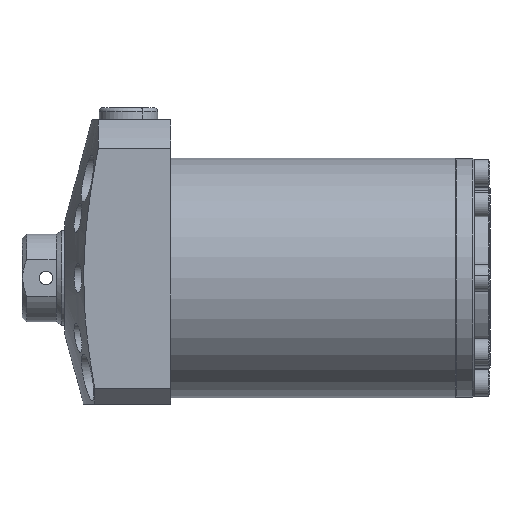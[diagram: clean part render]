
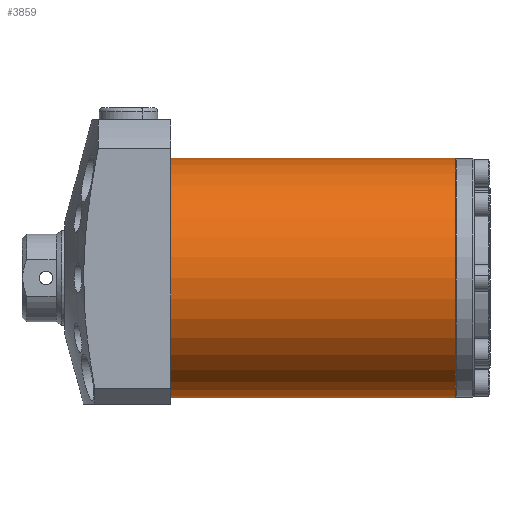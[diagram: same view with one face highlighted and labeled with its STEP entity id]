
A CAD part, left-side view. The second image highlights one B-rep face of the part: STEP entity #3859.
In plain terms, the highlighted cylindrical face has radius 45 mm (diameter 90 mm), a partial arc.
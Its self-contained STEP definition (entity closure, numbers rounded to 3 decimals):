
#908 = CARTESIAN_POINT ( 'NONE',  ( 0., 0., 0. ) ) ;
#909 = DIRECTION ( 'NONE',  ( 0., 1., 0. ) ) ;
#910 = DIRECTION ( 'NONE',  ( 0., 0., 1. ) ) ;
#926 = CARTESIAN_POINT ( 'NONE',  ( 0., -107., 0. ) ) ;
#928 = DIRECTION ( 'NONE',  ( 0., 1., 0. ) ) ;
#930 = DIRECTION ( 'NONE',  ( 0., 0., 1. ) ) ;
#2645 = VECTOR ( 'NONE', #5599, 1000. ) ;
#2652 = VECTOR ( 'NONE', #5604, 1000. ) ;
#2794 = CIRCLE ( 'NONE', #2799, 45. ) ;
#2799 = AXIS2_PLACEMENT_3D ( 'NONE', #908, #909, #910 ) ;
#2801 = CIRCLE ( 'NONE', #2803, 45. ) ;
#2803 = AXIS2_PLACEMENT_3D ( 'NONE', #926, #928, #930 ) ;
#3276 = ORIENTED_EDGE ( 'NONE', *, *, #7245, .F. ) ;
#3277 = ORIENTED_EDGE ( 'NONE', *, *, #3950, .T. ) ;
#3278 = ORIENTED_EDGE ( 'NONE', *, *, #7247, .T. ) ;
#3279 = ORIENTED_EDGE ( 'NONE', *, *, #3947, .F. ) ;
#3428 = EDGE_LOOP ( 'NONE', ( #3276, #3277, #3278, #3279 ) ) ;
#3859 = ADVANCED_FACE ( 'NONE', ( #8192 ), #8194, .T. ) ;
#3947 = EDGE_CURVE ( 'NONE', #6816, #6818, #2794, .T. ) ;
#3950 = EDGE_CURVE ( 'NONE', #6820, #6822, #2801, .T. ) ;
#4462 = AXIS2_PLACEMENT_3D ( 'NONE', #8193, #8187, #8195 ) ;
#4835 = CARTESIAN_POINT ( 'NONE',  ( 0., 0., 45. ) ) ;
#4843 = CARTESIAN_POINT ( 'NONE',  ( 0., 0., -45. ) ) ;
#4845 = CARTESIAN_POINT ( 'NONE',  ( 0., -107., -45. ) ) ;
#4847 = CARTESIAN_POINT ( 'NONE',  ( 0., -107., 45. ) ) ;
#5588 = CARTESIAN_POINT ( 'NONE',  ( 0., -107., -45. ) ) ;
#5593 = CARTESIAN_POINT ( 'NONE',  ( 0., -107., 45. ) ) ;
#5594 = LINE ( 'NONE', #5593, #2652 ) ;
#5595 = LINE ( 'NONE', #5588, #2645 ) ;
#5599 = DIRECTION ( 'NONE',  ( 0., 1., 0. ) ) ;
#5604 = DIRECTION ( 'NONE',  ( 0., 1., 0. ) ) ;
#6816 = VERTEX_POINT ( 'NONE', #4843 ) ;
#6818 = VERTEX_POINT ( 'NONE', #4835 ) ;
#6820 = VERTEX_POINT ( 'NONE', #4845 ) ;
#6822 = VERTEX_POINT ( 'NONE', #4847 ) ;
#7245 = EDGE_CURVE ( 'NONE', #6820, #6816, #5595, .T. ) ;
#7247 = EDGE_CURVE ( 'NONE', #6822, #6818, #5594, .T. ) ;
#8187 = DIRECTION ( 'NONE',  ( 0., 1., 0. ) ) ;
#8192 = FACE_OUTER_BOUND ( 'NONE', #3428, .T. ) ;
#8193 = CARTESIAN_POINT ( 'NONE',  ( 0., -107., 0. ) ) ;
#8194 = CYLINDRICAL_SURFACE ( 'NONE', #4462, 45. ) ;
#8195 = DIRECTION ( 'NONE',  ( 0., 0., 1. ) ) ;
